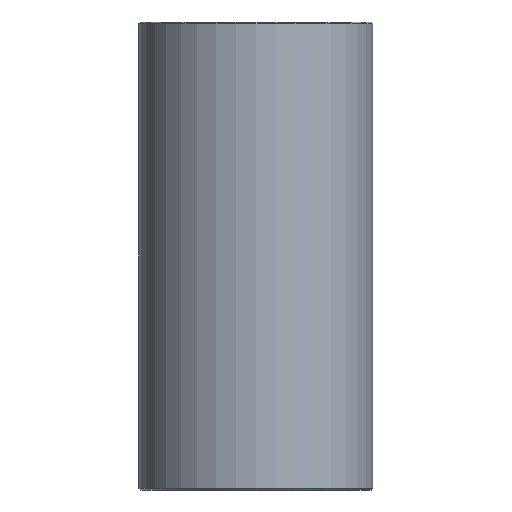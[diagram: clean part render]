
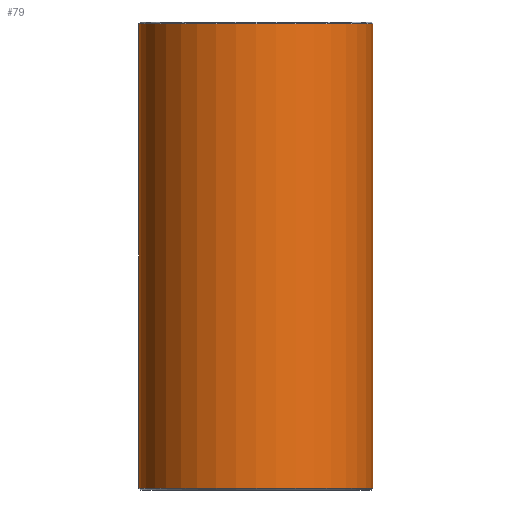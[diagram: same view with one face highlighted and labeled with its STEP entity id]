
A CAD part, front view. The second image highlights one B-rep face of the part: STEP entity #79.
In plain terms, the highlighted cylindrical face has radius 12.5 mm (diameter 25 mm), a full revolution.
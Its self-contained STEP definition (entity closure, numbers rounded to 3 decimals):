
#79=ADVANCED_FACE('',(#96,#97),#98,.T.);
#96=FACE_OUTER_BOUND('',#120,.T.);
#97=FACE_OUTER_BOUND('',#121,.T.);
#98=CYLINDRICAL_SURFACE('',#122,12.5);
#120=EDGE_LOOP('',(#152));
#121=EDGE_LOOP('',(#153));
#122=AXIS2_PLACEMENT_3D('',#154,#155,#156);
#152=ORIENTED_EDGE('',*,*,#178,.T.);
#153=ORIENTED_EDGE('',*,*,#177,.T.);
#154=CARTESIAN_POINT('',(0.0,0.0,50.0));
#155=DIRECTION('',(0.0,0.0,-1.0));
#156=DIRECTION('',(-1.0,0.0,0.0));
#177=EDGE_CURVE('',#190,#190,#191,.T.);
#178=EDGE_CURVE('',#192,#192,#193,.F.);
#190=VERTEX_POINT('',#206);
#191=CIRCLE('',#207,12.5);
#192=VERTEX_POINT('',#208);
#193=CIRCLE('',#209,12.5);
#206=CARTESIAN_POINT('',(12.5,0.0,0.2));
#207=AXIS2_PLACEMENT_3D('',#227,#228,#229);
#208=CARTESIAN_POINT('',(12.5,0.,49.8));
#209=AXIS2_PLACEMENT_3D('',#230,#231,#232);
#227=CARTESIAN_POINT('',(0.0,0.0,0.2));
#228=DIRECTION('',(0.0,0.0,1.0));
#229=DIRECTION('',(1.0,0.0,0.0));
#230=CARTESIAN_POINT('',(0.0,0.0,49.8));
#231=DIRECTION('',(0.0,0.0,1.0));
#232=DIRECTION('',(1.0,0.0,0.0));
